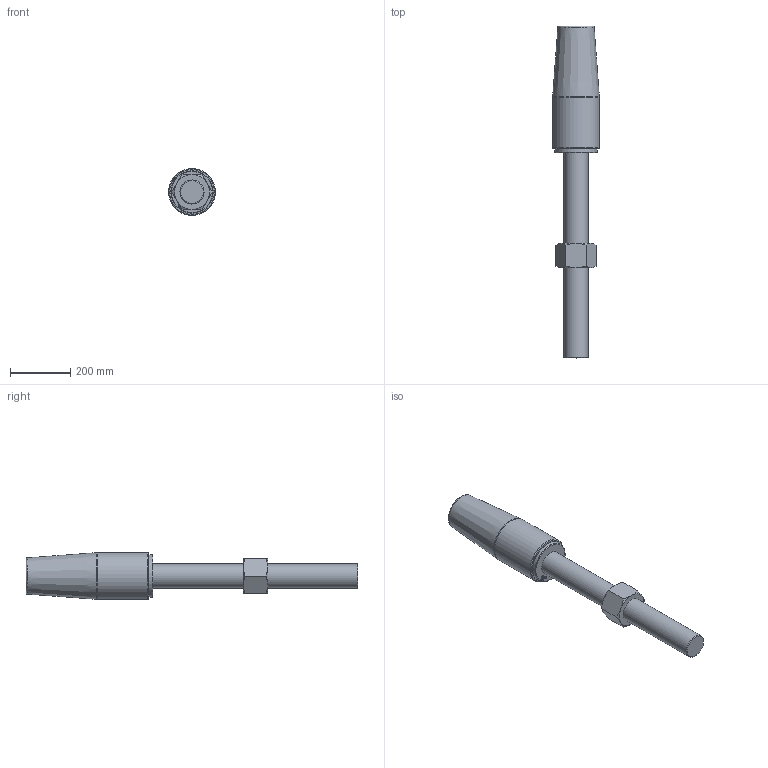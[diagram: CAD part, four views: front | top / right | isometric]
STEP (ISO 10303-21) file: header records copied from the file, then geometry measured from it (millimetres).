
FILE_DESCRIPTION(/* description */ (''),/* implementation_level */ '2;1');
FILE_NAME(/* name */ 'D:\Clienti\Redaelli (inventor)\CYB\STEP\Arrangement\CYB052 52 061 0.stp',/* time_stamp */ '2021-05-08T14:40:16+02:00',/* author */ ('fabri'),/* organization */ (''),/* preprocessor_version */ 'ST-DEVELOPER v16.13',/* originating_system */ 'Autodesk Inventor 2018',/* authorisation */ '');
FILE_SCHEMA (('AUTOMOTIVE_DESIGN { 1 0 10303 214 3 1 1 }'));
Length unit declared in the file: millimetre
Products named in the file (5): CYB012-52-061-0; RNT052 41 051 0_ROD; UNI 5587 - M80 x 4; CCY021-51-061-0_BUSH; CCY021-51-061-0
Assembly tree (4 placements, depth 2):
  CYB012-52-061-0
    RNT052 41 051 0_ROD
    UNI 5587 - M80 x 4
    CCY021-51-061-0_BUSH
    CCY021-51-061-0
Bounding box: 154.49 x 1099 x 154.49 mm (x, y, z)
Volume: 12093038.5 mm3; surface area: 582902 mm2
Topology: 4 solids, 4 shells, 714 faces, 1919 edges, 1272 vertices
Faces by surface type: bspline 380, plane 303, cone 19, cylinder 8, torus 4
Full cylindrical faces by diameter (mm): 73.505 x2, 80 x1, 81 x1, 105 x1, 115 x1, 140 x1, 155 x1
Entity records: 24229 total; most frequent: CARTESIAN_POINT 8896, ORIENTED_EDGE 3798, EDGE_CURVE 1899, DIRECTION 1843, VERTEX_POINT 1271, LINE 1075, VECTOR 1075, EDGE_LOOP 796
